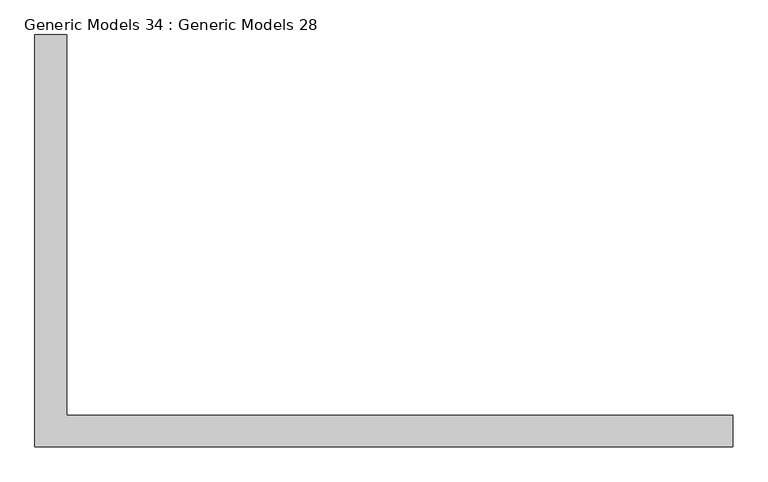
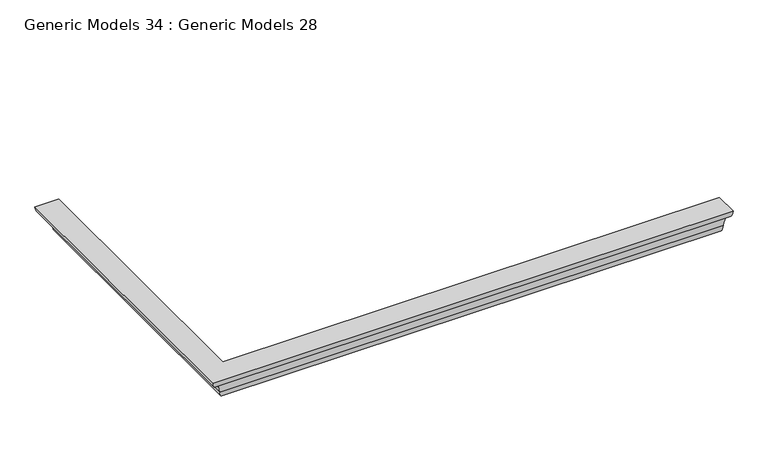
"""IFC4 building model written with IfcOpenShell, lengths in millimetres: proxy geometry, Generic Models 34 : Generic Models 28."""

from ifc_helpers import new_model, si_unit, frame, origin, place, context, project, spatial, polyline, circle_curve, ellipse_curve, source, transform, mapped, element, save
from ifc_brep_helpers import plane_surface, cylinder_surface, revolved_surface, advanced_brep


def generic_models_34_generic_models_28_84c8c996(model_context):
    return source(origin(), model_context, "Body", "AdvancedBrep", [
        advanced_brep(
        [(2870.2, 10045.7, 5688.0125), (2856.110615, 10045.7, 5709.1465775), (2833.489385, 10045.7, 5743.0784225), (2819.4, 10045.7, 5764.2125), (2870.2, 10045.7, 5764.2125), (3937.0, 9436.1, 5688.0125), (3937.0, 9436.1, 5764.2125), (3937.0, 9385.3, 5764.2125), (3937.0, 9399.389385, 5743.0784225), (3937.0, 9422.010615, 5709.1465775), (2870.2, 9436.1, 5688.0125), (2856.110615, 9422.010615, 5709.1465775), (2833.489385, 9399.389385, 5743.0784225), (2819.4, 9385.3, 5764.2125), (2870.2, 9436.1, 5764.2125)],
        [
            (0, 1, circle_curve(frame((2884.1789399, 10045.7, 5712.5952937), z_axis=(0.0, 1.0, 0.0), x_axis=(1.0, 0.0, 0.0)), 28.2794007)),
            (1, 2, circle_curve(frame((2811.0454802, 10045.7, 5703.6094868), z_axis=(0.0, -1.0, 0.0), x_axis=(1.0, 0.0, 0.0)), 45.4040279)),
            (2, 3, circle_curve(frame((2847.4683249, 10045.7, 5767.6612162), z_axis=(0.0, 1.0, 0.0), x_axis=(1.0, 0.0, 0.0)), 28.2794007)),
            (3, 4),
            (4, 0),
            (5, 6),
            (6, 7),
            (7, 8, circle_curve(frame((3937.0, 9413.3683249, 5767.6612162), z_axis=(1.0, 0.0, 0.0), x_axis=(0.0, 1.0, 0.0)), 28.2794007)),
            (8, 9, circle_curve(frame((3937.0, 9376.9454802, 5703.6094868), z_axis=(-1.0, 0.0, 0.0), x_axis=(0.0, 1.0, 0.0)), 45.4040279)),
            (9, 5, circle_curve(frame((3937.0, 9450.0789399, 5712.5952937), z_axis=(1.0, 0.0, 0.0), x_axis=(0.0, 1.0, 0.0)), 28.2794007)),
            (0, 10),
            (10, 11, ellipse_curve(frame((2884.1789399, 9450.0789399, 5712.5952937), z_axis=(-0.7071067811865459, 0.7071067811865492, 0.0), x_axis=(0.7071067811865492, 0.7071067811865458, 0.0)), 39.993112, 28.2794007)),
            (11, 1),
            (11, 12, ellipse_curve(frame((2811.0454802, 9376.9454802, 5703.6094868), z_axis=(0.7071067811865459, -0.7071067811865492, 0.0), x_axis=(-0.7071067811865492, -0.7071067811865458, 0.0)), 64.210992, 45.4040279)),
            (12, 2),
            (12, 13, ellipse_curve(frame((2847.4683249, 9413.3683249, 5767.6612162), z_axis=(-0.7071067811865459, 0.7071067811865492, 0.0), x_axis=(0.7071067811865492, 0.7071067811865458, 0.0)), 39.993112, 28.2794007)),
            (13, 3),
            (13, 7),
            (6, 14),
            (14, 4),
            (14, 10),
            (10, 5),
            (9, 11),
            (8, 12),
        ],
        [
            plane_surface(frame((2870.2, 10045.7, 5688.0125), z_axis=(0.0, 1.0, 0.0), x_axis=(0.0, 0.0, 1.0))),
            plane_surface(frame((3937.0, 9436.1, 5688.0125), z_axis=(1.0, 0.0, 0.0), x_axis=(0.0, 0.0, 1.0))),
            cylinder_surface(frame((2884.1789399, 10045.7, 5712.5952937), z_axis=(0.0, 1.0, 0.0), x_axis=(1.0, 0.0, 0.0)), 28.2794007),
            revolved_surface(polyline([(2856.4495081, 9331.541452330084, 5703.6094868), (2856.4495081, 10045.7, 5703.6094868)]), (2811.0454802, 10045.7, 5703.6094868), (0.0, -1.0, 0.0)),
            cylinder_surface(frame((2847.4683249, 10045.7, 5767.6612162), z_axis=(0.0, 1.0, 0.0), x_axis=(1.0, 0.0, 0.0)), 28.2794007),
            plane_surface(frame((2819.4, 10045.7, 5764.2125), z_axis=(0.0, 0.0, 1.0), x_axis=(0.0, -1.0, 0.0))),
            plane_surface(frame((2870.2, 10045.7, 5764.2125), z_axis=(1.0, 0.0, 0.0), x_axis=(0.0, -1.0, 0.0))),
            cylinder_surface(frame((2870.2, 9450.0789399, 5712.5952937), z_axis=(-1.0, 0.0, 0.0), x_axis=(0.0, 1.0, 0.0)), 28.2794007),
            revolved_surface(polyline([(3937.0, 9422.3495081, 5703.6094868), (2765.6414523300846, 9422.3495081, 5703.6094868)]), (2870.2, 9376.9454802, 5703.6094868), (1.0, 0.0, 0.0)),
            cylinder_surface(frame((2870.2, 9413.3683249, 5767.6612162), z_axis=(-1.0, 0.0, 0.0), x_axis=(0.0, 1.0, 0.0)), 28.2794007),
            plane_surface(frame((2870.2, 9436.1, 5764.2125), z_axis=(0.0, 1.0, 0.0), x_axis=(1.0, 0.0, 0.0))),
        ],
        [
            (0, [[1, 2, 3, 4, 5]]),
            (1, [[6, 7, 8, 9, 10]]),
            (2, [[-1, 11, 12, 13]]),
            (3, [[-2, -13, 14, 15]]),
            (4, [[-3, -15, 16, 17]]),
            (5, [[-4, -17, 18, -7, 19, 20]]),
            (6, [[-5, -20, 21, -11]]),
            (7, [[-12, 22, -10, 23]]),
            (8, [[-14, -23, -9, 24]]),
            (9, [[-16, -24, -8, -18]]),
            (10, [[-21, -19, -6, -22]]),
        ],
    ),
    ])


if __name__ == "__main__":
    model = new_model("IFC4")
    model_context = context("Model", 3, world=origin())
    ifc_project = project(units=[si_unit("LENGTHUNIT", "METRE", prefix="MILLI")], contexts=[model_context])
    site = spatial("IfcSite", under=ifc_project)
    building = spatial("IfcBuilding", under=site)
    placement = place(None, origin())
    generic_models_34_generic_models_28_shape = generic_models_34_generic_models_28_84c8c996(model_context)
    element("IfcBuildingElementProxy", 1, Name="Generic Models 34 : Generic Models 28", ObjectType="Generic Models 34 : Generic Models 28", at=placement, inside=building, context=model_context, shape_type="MappedRepresentation", body=[
        mapped(generic_models_34_generic_models_28_shape, transform((0.0, 0.0, 0.0), x_axis=(1.0, 0.0, 0.0), y_axis=(0.0, 1.0, 0.0), z_axis=(0.0, 0.0, 1.0))),
    ])
    save(model, "model.ifc")
